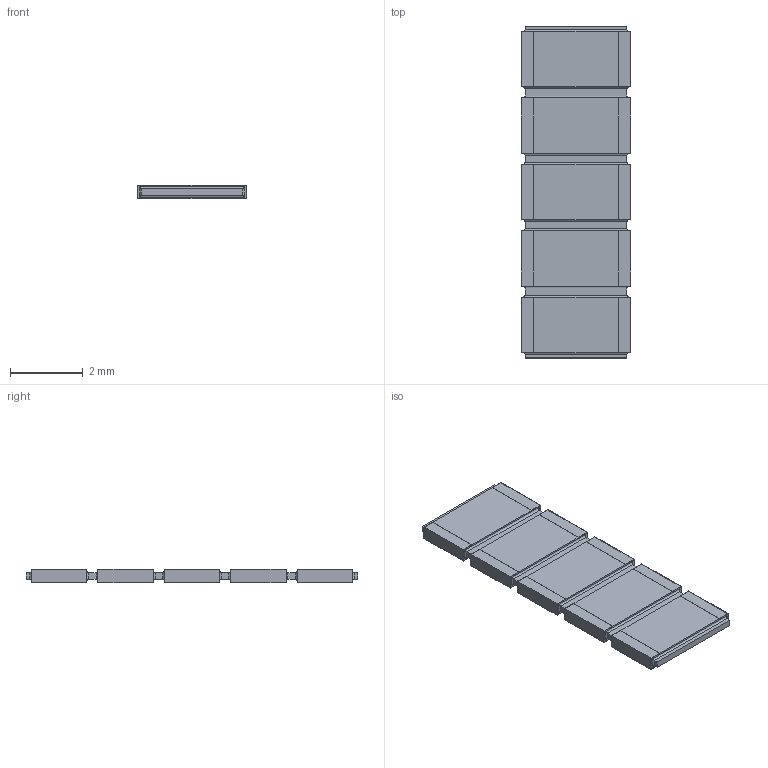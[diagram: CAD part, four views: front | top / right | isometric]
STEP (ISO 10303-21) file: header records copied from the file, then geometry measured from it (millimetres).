
FILE_DESCRIPTION(/* description */ (''),/* implementation_level */ '2;1');
FILE_NAME(/* name */ 'S:\DOCUMENT\AUTOCAD\3D_Modèles\10_3D-pour-VISHAY-COM\PRA\PRAHR182I5_B.stp',/* time_stamp */ '2018-02-02T10:52:59+01:00',/* author */ ('dparmentier'),/* organization */ ('unknown'),/* preprocessor_version */ 'ST-DEVELOPER v17',/* originating_system */ 'Autodesk Inventor 2018',/* authorisation */ '');
FILE_SCHEMA (('AUTOMOTIVE_DESIGN { 1 0 10303 214 3 1 1 }'));
Length unit declared in the file: millimetre
Products named in the file (1): PRAHR182I5_B
Bounding box: 3 x 9.12 x 0.38 mm (x, y, z)
Volume: 9.3 mm3; surface area: 98.2 mm2
Topology: 11 solids, 11 shells, 196 faces, 452 edges, 288 vertices
Faces by surface type: plane 156, cylinder 40
Entity records: 5459 total; most frequent: CARTESIAN_POINT 937, ORIENTED_EDGE 904, DIRECTION 886, EDGE_CURVE 452, LINE 412, VECTOR 412, VERTEX_POINT 288, AXIS2_PLACEMENT_3D 237
